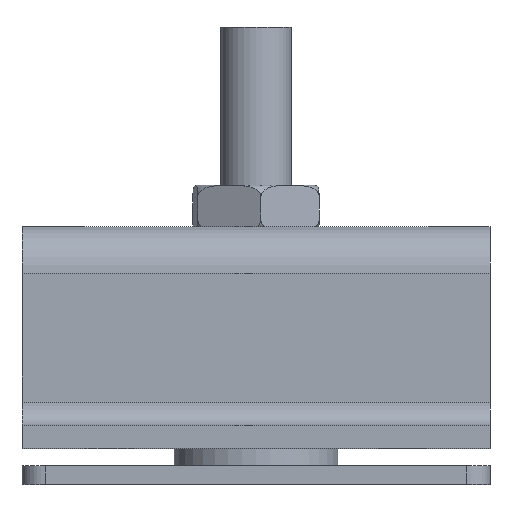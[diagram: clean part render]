
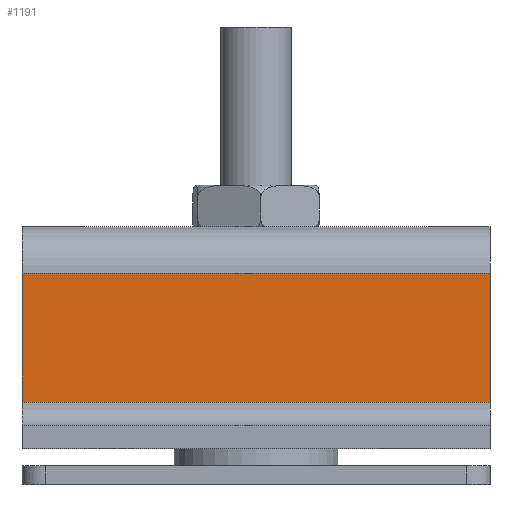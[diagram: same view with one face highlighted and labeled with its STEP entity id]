
A CAD part, top view. The second image highlights one B-rep face of the part: STEP entity #1191.
In plain terms, the highlighted planar face has unit normal (0, 0, 1).
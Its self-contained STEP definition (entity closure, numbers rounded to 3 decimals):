
#87=PLANE('',#1312);
#164=LINE('',#2465,#254);
#169=LINE('',#2475,#259);
#170=LINE('',#2477,#260);
#171=LINE('',#2478,#261);
#254=VECTOR('',#1589,40.);
#259=VECTOR('',#1600,11.);
#260=VECTOR('',#1601,40.);
#261=VECTOR('',#1602,11.);
#357=FACE_OUTER_BOUND('',#452,.T.);
#452=EDGE_LOOP('',(#1029,#1030,#1031,#1032));
#602=VERTEX_POINT('',#2417);
#619=VERTEX_POINT('',#2462);
#620=VERTEX_POINT('',#2464);
#623=VERTEX_POINT('',#2476);
#763=EDGE_CURVE('',#619,#620,#164,.T.);
#769=EDGE_CURVE('',#619,#602,#169,.T.);
#770=EDGE_CURVE('',#623,#602,#170,.T.);
#771=EDGE_CURVE('',#620,#623,#171,.T.);
#1029=ORIENTED_EDGE('',*,*,#763,.F.);
#1030=ORIENTED_EDGE('',*,*,#769,.T.);
#1031=ORIENTED_EDGE('',*,*,#770,.F.);
#1032=ORIENTED_EDGE('',*,*,#771,.F.);
#1191=ADVANCED_FACE('',(#357),#87,.T.);
#1312=AXIS2_PLACEMENT_3D('',#2474,#1598,#1599);
#1589=DIRECTION('',(1.,0.,0.));
#1598=DIRECTION('center_axis',(0.,0.,
1.));
#1599=DIRECTION('ref_axis',(0.,-1.,0.));
#1600=DIRECTION('',(0.,-1.,0.));
#1601=DIRECTION('',(-1.,0.,0.));
#1602=DIRECTION('',(0.,-1.,0.));
#2417=CARTESIAN_POINT('',(-17.784,18.665,30.5));
#2462=CARTESIAN_POINT('',(-17.784,29.665,30.5));
#2464=CARTESIAN_POINT('',(22.216,29.665,30.5));
#2465=CARTESIAN_POINT('',(2.216,29.665,30.5));
#2474=CARTESIAN_POINT('Origin',(2.216,23.903,30.5));
#2475=CARTESIAN_POINT('',(-17.784,9.618,30.5));
#2476=CARTESIAN_POINT('',(22.216,18.665,30.5));
#2477=CARTESIAN_POINT('',(2.216,18.665,30.5));
#2478=CARTESIAN_POINT('',(22.216,9.618,30.5));
